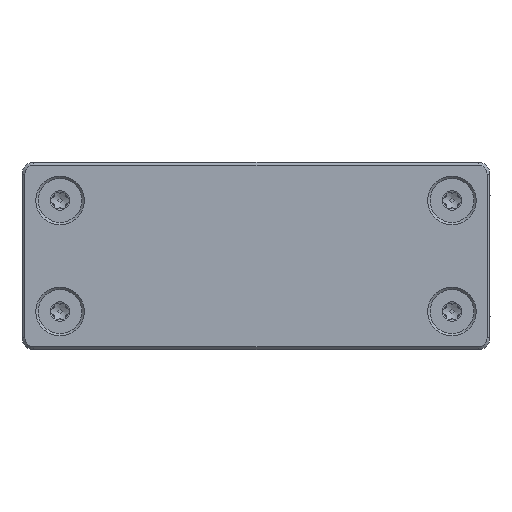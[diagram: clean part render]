
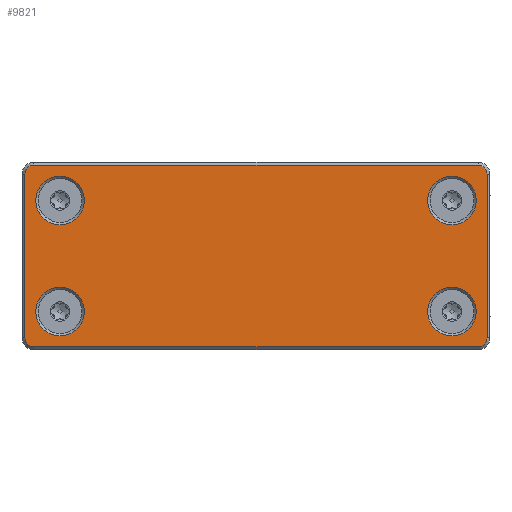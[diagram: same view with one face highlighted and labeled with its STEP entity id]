
A CAD part, left-side view. The second image highlights one B-rep face of the part: STEP entity #9821.
In plain terms, the highlighted planar face has unit normal (-1, 0, 0).
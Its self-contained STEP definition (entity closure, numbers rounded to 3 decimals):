
#183=PLANE('',#10729);
#693=LINE('',#18233,#1254);
#694=LINE('',#18237,#1255);
#695=LINE('',#18241,#1256);
#696=LINE('',#18245,#1257);
#1254=VECTOR('',#12767,10.);
#1255=VECTOR('',#12770,10.);
#1256=VECTOR('',#12773,10.);
#1257=VECTOR('',#12776,10.);
#1668=FACE_BOUND('',#2657,.T.);
#1669=FACE_BOUND('',#2658,.T.);
#1670=FACE_BOUND('',#2659,.T.);
#1671=FACE_BOUND('',#2660,.T.);
#2066=FACE_OUTER_BOUND('',#2656,.T.);
#2656=EDGE_LOOP('',(#7865,#7866,#7867,#7868,#7869,#7870,#7871,#7872));
#2657=EDGE_LOOP('',(#7873));
#2658=EDGE_LOOP('',(#7874));
#2659=EDGE_LOOP('',(#7875));
#2660=EDGE_LOOP('',(#7876));
#3234=CIRCLE('',#10711,4.15);
#3235=CIRCLE('',#10713,4.15);
#3236=CIRCLE('',#10715,4.15);
#3237=CIRCLE('',#10717,4.15);
#3244=CIRCLE('',#10730,1.5);
#3245=CIRCLE('',#10731,1.5);
#3246=CIRCLE('',#10732,1.5);
#3247=CIRCLE('',#10733,1.5);
#4436=VERTEX_POINT('',#18202);
#4437=VERTEX_POINT('',#18205);
#4438=VERTEX_POINT('',#18208);
#4439=VERTEX_POINT('',#18211);
#4446=VERTEX_POINT('',#18231);
#4447=VERTEX_POINT('',#18232);
#4448=VERTEX_POINT('',#18234);
#4449=VERTEX_POINT('',#18236);
#4450=VERTEX_POINT('',#18238);
#4451=VERTEX_POINT('',#18240);
#4452=VERTEX_POINT('',#18242);
#4453=VERTEX_POINT('',#18244);
#5725=EDGE_CURVE('',#4436,#4436,#3234,.T.);
#5726=EDGE_CURVE('',#4437,#4437,#3235,.T.);
#5727=EDGE_CURVE('',#4438,#4438,#3236,.T.);
#5728=EDGE_CURVE('',#4439,#4439,#3237,.T.);
#5735=EDGE_CURVE('',#4446,#4447,#693,.T.);
#5736=EDGE_CURVE('',#4448,#4446,#3244,.T.);
#5737=EDGE_CURVE('',#4449,#4448,#694,.T.);
#5738=EDGE_CURVE('',#4450,#4449,#3245,.T.);
#5739=EDGE_CURVE('',#4451,#4450,#695,.T.);
#5740=EDGE_CURVE('',#4452,#4451,#3246,.T.);
#5741=EDGE_CURVE('',#4453,#4452,#696,.T.);
#5742=EDGE_CURVE('',#4447,#4453,#3247,.T.);
#7865=ORIENTED_EDGE('',*,*,#5735,.F.);
#7866=ORIENTED_EDGE('',*,*,#5736,.F.);
#7867=ORIENTED_EDGE('',*,*,#5737,.F.);
#7868=ORIENTED_EDGE('',*,*,#5738,.F.);
#7869=ORIENTED_EDGE('',*,*,#5739,.F.);
#7870=ORIENTED_EDGE('',*,*,#5740,.F.);
#7871=ORIENTED_EDGE('',*,*,#5741,.F.);
#7872=ORIENTED_EDGE('',*,*,#5742,.F.);
#7873=ORIENTED_EDGE('',*,*,#5725,.T.);
#7874=ORIENTED_EDGE('',*,*,#5726,.T.);
#7875=ORIENTED_EDGE('',*,*,#5727,.T.);
#7876=ORIENTED_EDGE('',*,*,#5728,.T.);
#9821=ADVANCED_FACE('',(#2066,#1668,#1669,#1670,#1671),#183,.T.);
#10711=AXIS2_PLACEMENT_3D('',#18203,#12729,#12730);
#10713=AXIS2_PLACEMENT_3D('',#18206,#12733,#12734);
#10715=AXIS2_PLACEMENT_3D('',#18209,#12737,#12738);
#10717=AXIS2_PLACEMENT_3D('',#18212,#12741,#12742);
#10729=AXIS2_PLACEMENT_3D('',#18230,#12765,#12766);
#10730=AXIS2_PLACEMENT_3D('',#18235,#12768,#12769);
#10731=AXIS2_PLACEMENT_3D('',#18239,#12771,#12772);
#10732=AXIS2_PLACEMENT_3D('',#18243,#12774,#12775);
#10733=AXIS2_PLACEMENT_3D('',#18246,#12777,#12778);
#12729=DIRECTION('center_axis',(1.,0.,0.));
#12730=DIRECTION('ref_axis',(0.,-1.,0.));
#12733=DIRECTION('center_axis',(1.,0.,0.));
#12734=DIRECTION('ref_axis',(0.,-1.,0.));
#12737=DIRECTION('center_axis',(1.,0.,0.));
#12738=DIRECTION('ref_axis',(0.,-1.,0.));
#12741=DIRECTION('center_axis',(1.,0.,0.));
#12742=DIRECTION('ref_axis',(0.,-1.,0.));
#12765=DIRECTION('center_axis',(-1.,0.,0.));
#12766=DIRECTION('ref_axis',(0.,-1.,0.));
#12767=DIRECTION('',(0.,-1.,0.));
#12768=DIRECTION('center_axis',(1.,0.,0.));
#12769=DIRECTION('ref_axis',(0.,0.707,0.707));
#12770=DIRECTION('',(0.,0.,1.));
#12771=DIRECTION('center_axis',(1.,0.,0.));
#12772=DIRECTION('ref_axis',(0.,0.707,-0.707));
#12773=DIRECTION('',(0.,1.,0.));
#12774=DIRECTION('center_axis',(1.,0.,0.));
#12775=DIRECTION('ref_axis',(0.,-0.707,-0.707));
#12776=DIRECTION('',(0.,0.,-1.));
#12777=DIRECTION('center_axis',(1.,0.,0.));
#12778=DIRECTION('ref_axis',(0.,-0.707,0.707));
#18202=CARTESIAN_POINT('',(-630.72,53.262,314.865));
#18203=CARTESIAN_POINT('Origin',(-630.72,57.412,314.865));
#18205=CARTESIAN_POINT('',(-630.72,-13.738,333.865));
#18206=CARTESIAN_POINT('Origin',(-630.72,-9.588,333.865));
#18208=CARTESIAN_POINT('',(-630.72,53.262,333.865));
#18209=CARTESIAN_POINT('Origin',(-630.72,57.412,333.865));
#18211=CARTESIAN_POINT('',(-630.72,-13.738,314.865));
#18212=CARTESIAN_POINT('Origin',(-630.72,-9.588,314.865));
#18230=CARTESIAN_POINT('Origin',(-630.72,23.912,324.365));
#18231=CARTESIAN_POINT('',(-630.72,61.912,339.865));
#18232=CARTESIAN_POINT('',(-630.72,-14.088,339.865));
#18233=CARTESIAN_POINT('',(-630.72,3.912,339.865));
#18234=CARTESIAN_POINT('',(-630.72,63.412,338.365));
#18235=CARTESIAN_POINT('Origin',(-630.72,61.912,338.365));
#18236=CARTESIAN_POINT('',(-630.72,63.412,310.365));
#18237=CARTESIAN_POINT('',(-630.72,63.412,332.365));
#18238=CARTESIAN_POINT('',(-630.72,61.912,308.865));
#18239=CARTESIAN_POINT('Origin',(-630.72,61.912,310.365));
#18240=CARTESIAN_POINT('',(-630.72,-14.088,308.865));
#18241=CARTESIAN_POINT('',(-630.72,43.912,308.865));
#18242=CARTESIAN_POINT('',(-630.72,-15.588,310.365));
#18243=CARTESIAN_POINT('Origin',(-630.72,-14.088,310.365));
#18244=CARTESIAN_POINT('',(-630.72,-15.588,338.365));
#18245=CARTESIAN_POINT('',(-630.72,-15.588,316.365));
#18246=CARTESIAN_POINT('Origin',(-630.72,-14.088,338.365));
